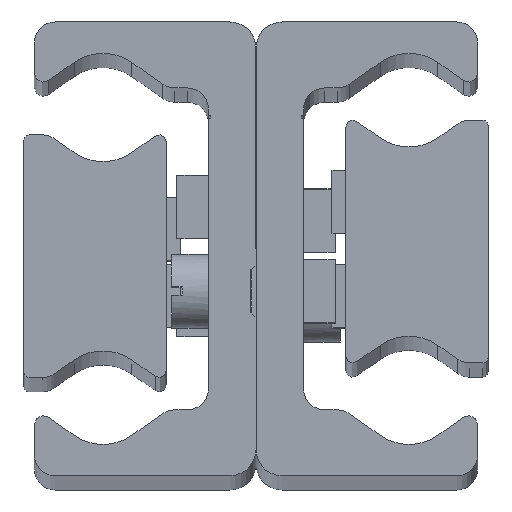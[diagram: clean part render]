
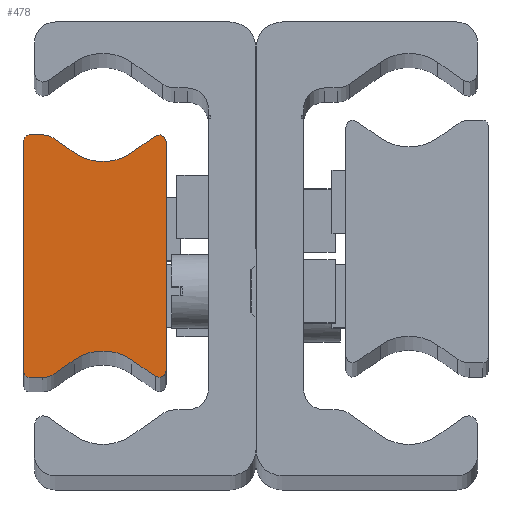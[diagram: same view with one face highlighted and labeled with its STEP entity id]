
A CAD part, top view. The second image highlights one B-rep face of the part: STEP entity #478.
In plain terms, the highlighted planar face has unit normal (0, 0, 1) as drawn and (0, 0, -1) by its records, which use the part's own axes.
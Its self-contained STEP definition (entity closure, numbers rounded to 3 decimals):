
#478 = ADVANCED_FACE( '', ( #1017 ), #1018, .F. );
#1017 = FACE_OUTER_BOUND( '', #1635, .T. );
#1018 = PLANE( '', #1636 );
#1635 = EDGE_LOOP( '', ( #2708, #2709, #2710, #2711, #2712, #2713, #2714, #2715, #2716, #2717, #2718, #2719, #2720, #2721, #2722, #2723 ) );
#1636 = AXIS2_PLACEMENT_3D( '', #2724, #2725, #2726 );
#2708 = ORIENTED_EDGE( '', *, *, #3387, .F. );
#2709 = ORIENTED_EDGE( '', *, *, #3450, .F. );
#2710 = ORIENTED_EDGE( '', *, *, #3464, .F. );
#2711 = ORIENTED_EDGE( '', *, *, #3607, .F. );
#2712 = ORIENTED_EDGE( '', *, *, #3521, .F. );
#2713 = ORIENTED_EDGE( '', *, *, #3588, .T. );
#2714 = ORIENTED_EDGE( '', *, *, #3493, .F. );
#2715 = ORIENTED_EDGE( '', *, *, #3608, .F. );
#2716 = ORIENTED_EDGE( '', *, *, #3609, .F. );
#2717 = ORIENTED_EDGE( '', *, *, #3610, .F. );
#2718 = ORIENTED_EDGE( '', *, *, #3445, .F. );
#2719 = ORIENTED_EDGE( '', *, *, #3282, .T. );
#2720 = ORIENTED_EDGE( '', *, *, #3416, .F. );
#2721 = ORIENTED_EDGE( '', *, *, #3611, .F. );
#2722 = ORIENTED_EDGE( '', *, *, #3365, .F. );
#2723 = ORIENTED_EDGE( '', *, *, #3612, .F. );
#2724 = CARTESIAN_POINT( '', ( 0.5, -11., -770. ) );
#2725 = DIRECTION( '', ( 0., 0., 1. ) );
#2726 = DIRECTION( '', ( 1., 0., 0. ) );
#3282 = EDGE_CURVE( '', #3854, #3852, #3855, .T. );
#3365 = EDGE_CURVE( '', #3991, #3993, #3994, .T. );
#3387 = EDGE_CURVE( '', #4032, #4034, #4035, .T. );
#3416 = EDGE_CURVE( '', #4077, #3852, #4079, .T. );
#3445 = EDGE_CURVE( '', #3854, #4122, #4123, .T. );
#3450 = EDGE_CURVE( '', #4128, #4032, #4130, .T. );
#3464 = EDGE_CURVE( '', #4147, #4128, #4149, .T. );
#3493 = EDGE_CURVE( '', #4193, #4195, #4196, .T. );
#3521 = EDGE_CURVE( '', #4236, #4238, #4239, .T. );
#3588 = EDGE_CURVE( '', #4236, #4195, #4332, .T. );
#3607 = EDGE_CURVE( '', #4238, #4147, #4357, .T. );
#3608 = EDGE_CURVE( '', #4358, #4193, #4359, .T. );
#3609 = EDGE_CURVE( '', #4360, #4358, #4361, .T. );
#3610 = EDGE_CURVE( '', #4122, #4360, #4362, .T. );
#3611 = EDGE_CURVE( '', #3993, #4077, #4363, .T. );
#3612 = EDGE_CURVE( '', #4034, #3991, #4364, .T. );
#3852 = VERTEX_POINT( '', #4654 );
#3854 = VERTEX_POINT( '', #4657 );
#3855 = CIRCLE( '', #4658, 4.763 );
#3991 = VERTEX_POINT( '', #4834 );
#3993 = VERTEX_POINT( '', #4837 );
#3994 = LINE( '', #4838, #4839 );
#4032 = VERTEX_POINT( '', #4883 );
#4034 = VERTEX_POINT( '', #4886 );
#4035 = LINE( '', #4887, #4888 );
#4077 = VERTEX_POINT( '', #4937 );
#4079 = LINE( '', #4940, #4941 );
#4122 = VERTEX_POINT( '', #4994 );
#4123 = LINE( '', #4995, #4996 );
#4128 = VERTEX_POINT( '', #5002 );
#4130 = CIRCLE( '', #5005, 0.5 );
#4147 = VERTEX_POINT( '', #5027 );
#4149 = LINE( '', #5030, #5031 );
#4193 = VERTEX_POINT( '', #5088 );
#4195 = VERTEX_POINT( '', #5091 );
#4196 = LINE( '', #5092, #5093 );
#4236 = VERTEX_POINT( '', #5142 );
#4238 = VERTEX_POINT( '', #5145 );
#4239 = LINE( '', #5146, #5147 );
#4332 = CIRCLE( '', #5263, 4.763 );
#4357 = CIRCLE( '', #5293, 2. );
#4358 = VERTEX_POINT( '', #5294 );
#4359 = CIRCLE( '', #5295, 0.668 );
#4360 = VERTEX_POINT( '', #5296 );
#4361 = LINE( '', #5297, #5298 );
#4362 = CIRCLE( '', #5299, 0.668 );
#4363 = CIRCLE( '', #5300, 2. );
#4364 = CIRCLE( '', #5301, 0.5 );
#4654 = CARTESIAN_POINT( '', ( 4.768, -9.827, -770. ) );
#4657 = CARTESIAN_POINT( '', ( 10.232, -9.827, -770. ) );
#4658 = AXIS2_PLACEMENT_3D( '', #5556, #5557, #5558 );
#4834 = CARTESIAN_POINT( '', ( 0.5, -11.5, -770. ) );
#4837 = CARTESIAN_POINT( '', ( 1.748, -11.5, -770. ) );
#4838 = CARTESIAN_POINT( '', ( 0.5, -11.5, -770. ) );
#4839 = VECTOR( '', #5669, 1000. );
#4883 = CARTESIAN_POINT( '', ( 0., 11., -770. ) );
#4886 = CARTESIAN_POINT( '', ( 0., -11., -770. ) );
#4887 = CARTESIAN_POINT( '', ( 0., 11., -770. ) );
#4888 = VECTOR( '', #5710, 1000. );
#4937 = CARTESIAN_POINT( '', ( 2.895, -11.138, -770. ) );
#4940 = CARTESIAN_POINT( '', ( 2.895, -11.138, -770. ) );
#4941 = VECTOR( '', #5752, 1000. );
#4994 = CARTESIAN_POINT( '', ( 12.449, -11.379, -770. ) );
#4995 = CARTESIAN_POINT( '', ( 10.232, -9.827, -770. ) );
#4996 = VECTOR( '', #5787, 1000. );
#5002 = CARTESIAN_POINT( '', ( 0.5, 11.5, -770. ) );
#5005 = AXIS2_PLACEMENT_3D( '', #5793, #5794, #5795 );
#5027 = CARTESIAN_POINT( '', ( 1.748, 11.5, -770. ) );
#5030 = CARTESIAN_POINT( '', ( 1.748, 11.5, -770. ) );
#5031 = VECTOR( '', #5808, 1000. );
#5088 = CARTESIAN_POINT( '', ( 12.449, 11.379, -770. ) );
#5091 = CARTESIAN_POINT( '', ( 10.232, 9.827, -770. ) );
#5092 = CARTESIAN_POINT( '', ( 12.449, 11.379, -770. ) );
#5093 = VECTOR( '', #5850, 1000. );
#5142 = CARTESIAN_POINT( '', ( 4.768, 9.827, -770. ) );
#5145 = CARTESIAN_POINT( '', ( 2.895, 11.138, -770. ) );
#5146 = CARTESIAN_POINT( '', ( 4.768, 9.827, -770. ) );
#5147 = VECTOR( '', #5885, 1000. );
#5263 = AXIS2_PLACEMENT_3D( '', #5963, #5964, #5965 );
#5293 = AXIS2_PLACEMENT_3D( '', #5983, #5984, #5985 );
#5294 = CARTESIAN_POINT( '', ( 13.5, 10.832, -770. ) );
#5295 = AXIS2_PLACEMENT_3D( '', #5986, #5987, #5988 );
#5296 = CARTESIAN_POINT( '', ( 13.5, -10.832, -770. ) );
#5297 = CARTESIAN_POINT( '', ( 13.5, -10.832, -770. ) );
#5298 = VECTOR( '', #5989, 1000. );
#5299 = AXIS2_PLACEMENT_3D( '', #5990, #5991, #5992 );
#5300 = AXIS2_PLACEMENT_3D( '', #5993, #5994, #5995 );
#5301 = AXIS2_PLACEMENT_3D( '', #5996, #5997, #5998 );
#5556 = CARTESIAN_POINT( '', ( 7.5, -13.729, -770. ) );
#5557 = DIRECTION( '', ( 0., 0., 1. ) );
#5558 = DIRECTION( '', ( 1., 0., 0. ) );
#5669 = DIRECTION( '', ( 1., 0., 0. ) );
#5710 = DIRECTION( '', ( 0., -1., 0. ) );
#5752 = DIRECTION( '', ( 0.819, 0.574, 0. ) );
#5787 = DIRECTION( '', ( 0.819, -0.574, 0. ) );
#5793 = CARTESIAN_POINT( '', ( 0.5, 11., -770. ) );
#5794 = DIRECTION( '', ( 0., 0., 1. ) );
#5795 = DIRECTION( '', ( 1., 0., 0. ) );
#5808 = DIRECTION( '', ( -1., 0., 0. ) );
#5850 = DIRECTION( '', ( -0.819, -0.574, 0. ) );
#5885 = DIRECTION( '', ( -0.819, 0.574, 0. ) );
#5963 = CARTESIAN_POINT( '', ( 7.5, 13.729, -770. ) );
#5964 = DIRECTION( '', ( 0., 0., 1. ) );
#5965 = DIRECTION( '', ( 1., 0., 0. ) );
#5983 = CARTESIAN_POINT( '', ( 1.748, 9.5, -770. ) );
#5984 = DIRECTION( '', ( 0., 0., 1. ) );
#5985 = DIRECTION( '', ( 1., 0., 0. ) );
#5986 = CARTESIAN_POINT( '', ( 12.832, 10.832, -770. ) );
#5987 = DIRECTION( '', ( 0., 0., 1. ) );
#5988 = DIRECTION( '', ( 1., 0., 0. ) );
#5989 = DIRECTION( '', ( 0., 1., 0. ) );
#5990 = CARTESIAN_POINT( '', ( 12.832, -10.832, -770. ) );
#5991 = DIRECTION( '', ( 0., 0., 1. ) );
#5992 = DIRECTION( '', ( 1., 0., 0. ) );
#5993 = CARTESIAN_POINT( '', ( 1.748, -9.5, -770. ) );
#5994 = DIRECTION( '', ( 0., 0., 1. ) );
#5995 = DIRECTION( '', ( 1., 0., 0. ) );
#5996 = CARTESIAN_POINT( '', ( 0.5, -11., -770. ) );
#5997 = DIRECTION( '', ( 0., 0., 1. ) );
#5998 = DIRECTION( '', ( 1., 0., 0. ) );
